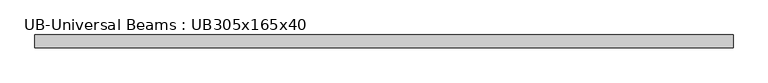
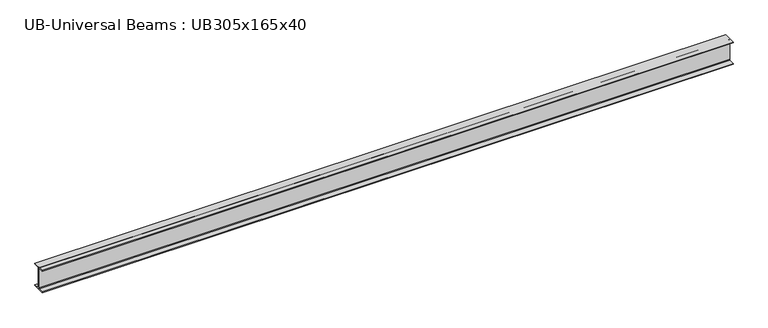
"""IFC4 building model written with IfcOpenShell, lengths in millimetres: beam geometry, UB-Universal Beams : UB305x165x40."""

import ifcopenshell
import ifcopenshell.guid

model = None  # the IFC model being written
_history = None  # IfcOwnerHistory: only IFC2X3 demands one
_inside = {}  # id of a spatial element -> (the spatial element, [elements in it])
_under = {}  # id of a project, library or spatial element -> (it, [spatial elements below it])
_declared = {}  # id of a project -> (the project, [libraries it declares])
_typed = {}  # id of a type object -> (the type object, [elements of that type])
_made_of = {}  # id of a material, layer set ... -> (it, [elements and type objects made of it])


def new_model(schema):
    """Start an empty IFC model of exactly this schema.

    Asked for "IFC4X3", IfcOpenShell would pick the latest addendum, in which some entities
    have other attributes; the version numbers below select the first issue.
    IFC2X3 requires an IfcOwnerHistory on every rooted entity: one is made here for all.
    """
    global model, _history
    if schema == "IFC4X3":
        model = ifcopenshell.file(schema_version=(4, 3, 0, 0))
    else:
        model = ifcopenshell.file(schema=schema)
    _inside.clear()
    _under.clear()
    _declared.clear()
    _typed.clear()
    _made_of.clear()
    _history = None
    if model.schema == "IFC2X3":
        org = make("IfcOrganization", Name="unknown")
        user = make(
            "IfcPersonAndOrganization",
            ThePerson=make("IfcPerson", FamilyName="unknown"),
            TheOrganization=org,
        )
        app = make(
            "IfcApplication",
            ApplicationDeveloper=org,
            Version="unknown",
            ApplicationFullName="unknown",
            ApplicationIdentifier="unknown",
        )
        _history = make(
            "IfcOwnerHistory",
            OwningUser=user,
            OwningApplication=app,
            ChangeAction="ADDED",
            CreationDate=0,
        )
    return model


def make(cls, **values):
    """One entity of the class cls with the attributes given. An attribute that is None is left unset."""
    return model.create_entity(
        cls, **{name: value for name, value in values.items() if value is not None}
    )


def rooted(cls, **values):
    """An entity with a GlobalId (a new one), such as an element, a storey or a relation."""
    return make(cls, GlobalId=ifcopenshell.guid.new(), OwnerHistory=_history, **values)


def si_unit(unit_type, name, prefix=None):
    """IfcSIUnit, for example si_unit("LENGTHUNIT", "METRE", prefix="MILLI")."""
    return make("IfcSIUnit", UnitType=unit_type, Prefix=prefix, Name=name)


def assignment(units):
    """IfcUnitAssignment: the units of a project."""
    return None if units is None else make("IfcUnitAssignment", Units=units)


def point(xyz):
    """IfcCartesianPoint."""
    return None if xyz is None else make("IfcCartesianPoint", Coordinates=xyz)


def direction(xyz):
    """IfcDirection."""
    return None if xyz is None else make("IfcDirection", DirectionRatios=xyz)


def frame(location, z_axis=None, x_axis=None):
    """IfcAxis2Placement3D, a coordinate frame: its origin and axes. An axis left out is left unset."""
    return make(
        "IfcAxis2Placement3D",
        Location=point(location),
        Axis=direction(z_axis),
        RefDirection=direction(x_axis),
    )


def frame_2d(location, x_axis=None):
    """IfcAxis2Placement2D, a coordinate frame in the plane: its origin and x axis."""
    return make(
        "IfcAxis2Placement2D", Location=point(location), RefDirection=direction(x_axis)
    )


def origin():
    """The frame at (0, 0, 0) with its axes left unset."""
    return frame((0.0, 0.0, 0.0))


def place(relative_to, where):
    """IfcLocalPlacement: puts the frame where relative to a parent placement (None: the world)."""
    return make(
        "IfcLocalPlacement", PlacementRelTo=relative_to, RelativePlacement=where
    )


def context(
    kind, dimensions, precision=None, world=None, true_north=None, identifier=None
):
    """IfcGeometricRepresentationContext, for example the 3D "Model" context."""
    return make(
        "IfcGeometricRepresentationContext",
        ContextIdentifier=identifier,
        ContextType=kind,
        CoordinateSpaceDimension=dimensions,
        Precision=precision,
        WorldCoordinateSystem=world,
        TrueNorth=true_north,
    )


def project(units=None, contexts=None):
    """IfcProject with its units and contexts."""
    return rooted(
        "IfcProject",
        Name="project",
        RepresentationContexts=contexts,
        UnitsInContext=assignment(units),
    )


def spatial(cls, under=None, at=None, **own):
    """A site, building, storey or space (cls), placed at a placement, below another one or the project."""
    s = rooted(cls, ObjectPlacement=at, **own)
    if under is not None:
        _under.setdefault(under.id(), (under, []))[1].append(s)
    return s


def polyline(points):
    """IfcPolyline through the points."""
    return make("IfcPolyline", Points=[point(p) for p in points])


def circle_curve(where, radius):
    """IfcCircle in the frame where."""
    return make("IfcCircle", Position=where, Radius=radius)


def trimmed(basis, trim1, trim2, sense, master):
    """IfcTrimmedCurve: the piece of a basis curve between two trims."""
    return make(
        "IfcTrimmedCurve",
        BasisCurve=basis,
        Trim1=trim1,
        Trim2=trim2,
        SenseAgreement=sense,
        MasterRepresentation=master,
    )


def segment(curve, same_sense, transition):
    """IfcCompositeCurveSegment."""
    return make(
        "IfcCompositeCurveSegment",
        Transition=transition,
        SameSense=same_sense,
        ParentCurve=curve,
    )


def composite_curve(segments, self_intersect=None):
    """IfcCompositeCurve: segments joined end to end."""
    return make("IfcCompositeCurve", Segments=segments, SelfIntersect=self_intersect)


def outline(outer, holes=None, kind="AREA"):
    """IfcArbitraryClosedProfileDef: a profile drawn as a closed curve; with holes, ...WithVoids."""
    if holes is None:
        return make("IfcArbitraryClosedProfileDef", ProfileType=kind, OuterCurve=outer)
    return make(
        "IfcArbitraryProfileDefWithVoids",
        ProfileType=kind,
        OuterCurve=outer,
        InnerCurves=holes,
    )


def extrude(swept, where, along, depth):
    """IfcExtrudedAreaSolid: the profile swept, set in the frame where, extruded along a direction by depth."""
    return make(
        "IfcExtrudedAreaSolid",
        SweptArea=swept,
        Position=where,
        ExtrudedDirection=direction(along),
        Depth=depth,
    )


def shape(context_of_items, identifier, shape_type, items):
    """IfcShapeRepresentation: the items that make up one representation, for example the "Body"."""
    return make(
        "IfcShapeRepresentation",
        ContextOfItems=context_of_items,
        RepresentationIdentifier=identifier,
        RepresentationType=shape_type,
        Items=items,
    )


def source(mapping_origin, context_of_items, identifier, shape_type, items):
    """IfcRepresentationMap: a shape defined once, which mapped items show again and again."""
    return make(
        "IfcRepresentationMap",
        MappingOrigin=mapping_origin,
        MappedRepresentation=shape(context_of_items, identifier, shape_type, items),
    )


def transform(
    local_origin,
    x_axis=None,
    y_axis=None,
    z_axis=None,
    scale=None,
    scale2=None,
    scale3=None,
    uniform=True,
):
    """IfcCartesianTransformationOperator3D, or its non-uniform kind. x_axis, y_axis, z_axis: its Axis1, 2, 3."""
    if uniform:
        return make(
            "IfcCartesianTransformationOperator3D",
            Axis1=direction(x_axis),
            Axis2=direction(y_axis),
            LocalOrigin=point(local_origin),
            Scale=scale,
            Axis3=direction(z_axis),
        )
    return make(
        "IfcCartesianTransformationOperator3DnonUniform",
        Axis1=direction(x_axis),
        Axis2=direction(y_axis),
        LocalOrigin=point(local_origin),
        Scale=scale,
        Axis3=direction(z_axis),
        Scale2=scale2,
        Scale3=scale3,
    )


def mapped(mapping_source, mapping_target):
    """IfcMappedItem: shows the shape of a source again, moved by a transform."""
    return make(
        "IfcMappedItem", MappingSource=mapping_source, MappingTarget=mapping_target
    )


def made_of(thing, what):
    """Note that an element or type object is made of a material, layer set ...; save() writes the relation."""
    if what is not None:
        _made_of.setdefault(what.id(), (what, []))[1].append(thing)
    return thing


def element(
    cls,
    number,
    at=None,
    inside=None,
    cuts=None,
    type_object=None,
    material=None,
    context=None,
    identifier="Body",
    shape_type=None,
    held_by="IfcProductDefinitionShape",
    body=None,
    shapes=None,
    **own,
):
    """One element of the class cls, such as IfcWall. Its Tag is "e" and its number.

    at: its placement. inside: the storey or other place that contains it. cuts: it is an
    opening in that element (IfcRelVoidsElement). A single representation is given by context,
    identifier, shape_type and body (its items); several are given by shapes. held_by: the class
    of the entity that holds the representations. save() writes the other relations.
    """
    e = rooted(cls, Tag="e%d" % number, ObjectPlacement=at, **own)
    if body is not None:
        shapes = [shape(context, identifier, shape_type, body)]
    if shapes is not None:
        e.Representation = make(held_by, Representations=shapes)
    if inside is not None:
        _inside.setdefault(inside.id(), (inside, []))[1].append(e)
    if cuts is not None:
        rooted(
            "IfcRelVoidsElement", RelatingBuildingElement=cuts, RelatedOpeningElement=e
        )
    if type_object is not None:
        _typed.setdefault(type_object.id(), (type_object, []))[1].append(e)
    return made_of(e, material)


def aggregate(whole, parts):
    """IfcRelAggregates: a whole, such as a stair, and the parts it consists of."""
    return rooted("IfcRelAggregates", RelatingObject=whole, RelatedObjects=parts)


def save(model, path):
    """Write the relations noted so far, then the file.

    IfcRelAggregates (storeys below a building ...), IfcRelContainedInSpatialStructure (elements
    in a storey), IfcRelDefinesByType, IfcRelAssociatesMaterial and IfcRelDeclares: one each for
    every whole, place, type object, material and project.
    """
    for whole, parts in _under.values():
        aggregate(whole, parts)
    for where, things in _inside.values():
        rooted(
            "IfcRelContainedInSpatialStructure",
            RelatedElements=things,
            RelatingStructure=where,
        )
    for kind, things in _typed.values():
        rooted("IfcRelDefinesByType", RelatedObjects=things, RelatingType=kind)
    for what, things in _made_of.values():
        rooted("IfcRelAssociatesMaterial", RelatedObjects=things, RelatingMaterial=what)
    for by, libraries in _declared.values():
        rooted("IfcRelDeclares", RelatingContext=by, RelatedDefinitions=libraries)
    model.write(path)


def ub_universal_beams_ub305x165x40_45dcbf9e(model_context):
    return source(origin(), model_context, "Body", "SweptSolid", [
        extrude(outline(composite_curve([segment(polyline([(82.5, -141.5), (82.5, -151.7), (-82.5, -151.7), (-82.5, -141.5), (-11.9, -141.5)]), True, "CONTINUOUS"), segment(trimmed(circle_curve(frame_2d((-11.9, -132.6)), 8.9), [point((-11.9, -141.5))], [point((-3.0, -132.6))], True, "CARTESIAN"), True, "CONTINUOUS"), segment(polyline([(-3.0, -132.6), (-3.0, 132.6)]), True, "CONTINUOUS"), segment(trimmed(circle_curve(frame_2d((-11.9, 132.6)), 8.9), [point((-3.0, 132.6))], [point((-11.9, 141.5))], True, "CARTESIAN"), True, "CONTINUOUS"), segment(polyline([(-11.9, 141.5), (-82.5, 141.5), (-82.5, 151.7), (82.5, 151.7), (82.5, 141.5), (11.9, 141.5)]), True, "CONTINUOUS"), segment(trimmed(circle_curve(frame_2d((11.9, 132.6)), 8.9), [point((11.9, 141.5))], [point((3.0, 132.6))], True, "CARTESIAN"), True, "CONTINUOUS"), segment(polyline([(3.0, 132.6), (3.0, -132.6)]), True, "CONTINUOUS"), segment(trimmed(circle_curve(frame_2d((11.9, -132.6)), 8.9), [point((3.0, -132.6))], [point((11.9, -141.5))], True, "CARTESIAN"), True, "CONTINUOUS"), segment(polyline([(11.9, -141.5), (82.5, -141.5)]), True, "CONTINUOUS")], self_intersect=False)), frame((-4387.0, 0.0, 0.0), z_axis=(1.0, 0.0, 0.0), x_axis=(0.0, 1.0, 0.0)), (0.0, 0.0, 1.0), 8958.5),
    ])


if __name__ == "__main__":
    model = new_model("IFC4")
    model_context = context("Model", 3, world=origin())
    ifc_project = project(units=[si_unit("LENGTHUNIT", "METRE", prefix="MILLI")], contexts=[model_context])
    site = spatial("IfcSite", under=ifc_project)
    building = spatial("IfcBuilding", under=site)
    placement = place(None, origin())
    ub_universal_beams_ub305x165x40_shape = ub_universal_beams_ub305x165x40_45dcbf9e(model_context)
    element("IfcBeam", 1, ObjectType="UB-Universal Beams : UB305x165x40", at=placement, inside=building, context=model_context, shape_type="MappedRepresentation", body=[
        mapped(ub_universal_beams_ub305x165x40_shape, transform((0.0, 0.0, 0.0), x_axis=(1.0, 0.0, 0.0), y_axis=(0.0, 1.0, 0.0), z_axis=(0.0, 0.0, 1.0))),
    ])
    save(model, "model.ifc")
